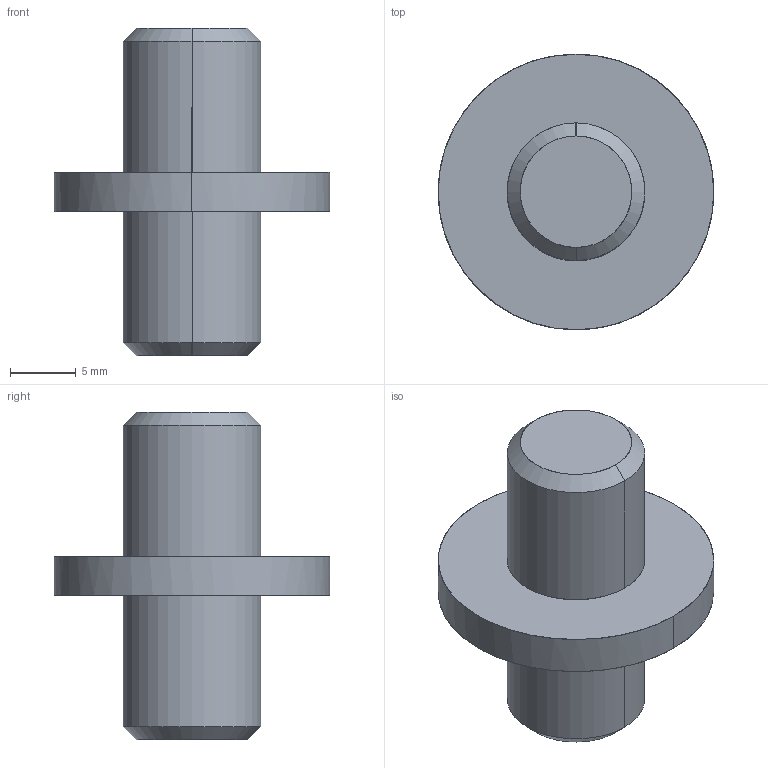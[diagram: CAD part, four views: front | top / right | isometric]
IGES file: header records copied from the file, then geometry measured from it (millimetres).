
Global section: file name: E:\UnigraphicsGraphicData\MISUMI_PRESS-PARTS\IGES\3d_sswc21_00823_r00.igs; native system: NX V5.0; preprocessor: UGS NX IGES V5.0; author: MISUMI; date: 20110105.163201; units: millimetre
Bounding box: 21 x 21 x 25 mm (x, y, z)
Surface area: 1577.2 mm2 (no closed solid volume)
Topology: 0 solids, 0 shells, 14 faces, 88 edges, 88 vertices
Faces by surface type: bspline 14
